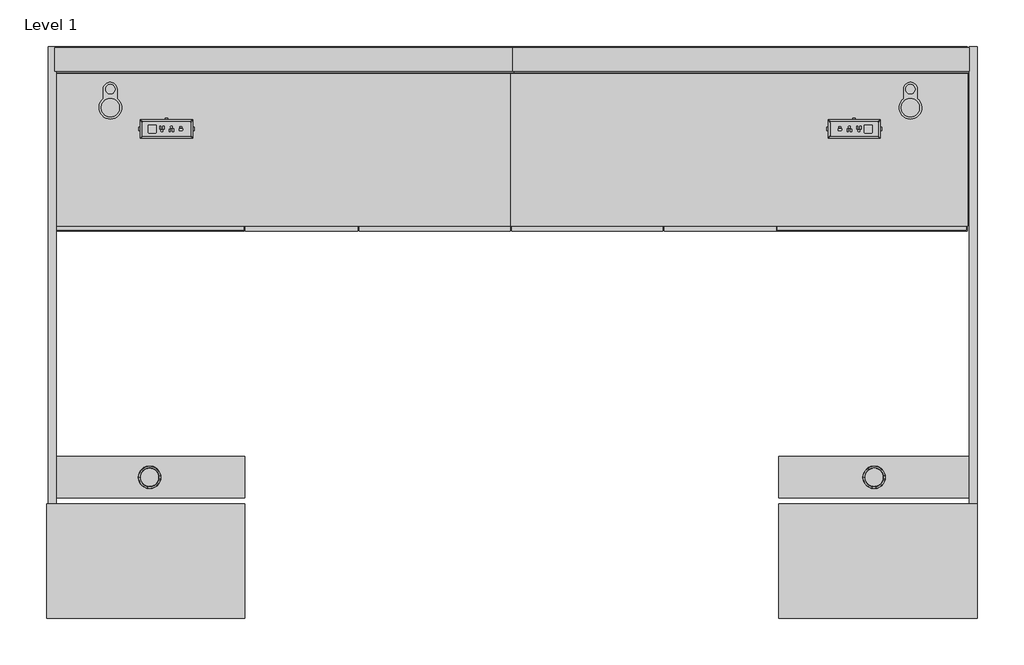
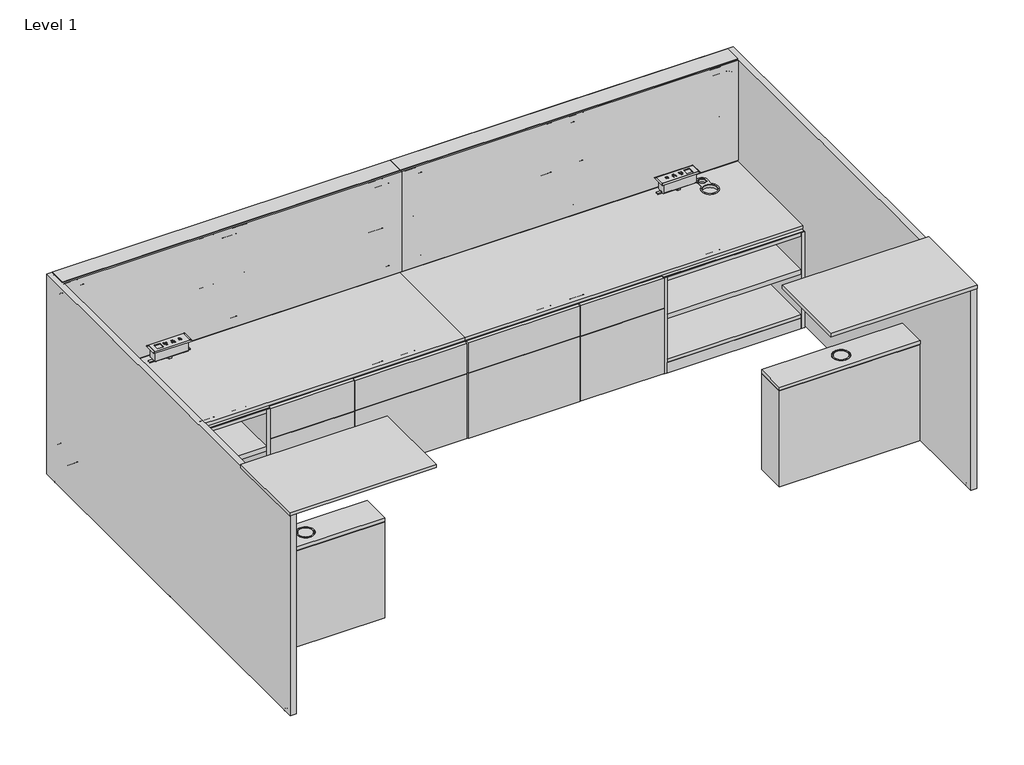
# One storey, incomplete: 28 furniture elements.
"""IFC4 building model written with IfcOpenShell, lengths in millimetres."""

from ifc_helpers import new_model, si_unit, origin, place, context, project, spatial, transform, mapped, element, save
from components import furniture_ddc98a45, furniture_9214251e, furniture_b60a1e1f, furniture_cee21b59, furniture_354f377b, furniture_8a5296c4, furniture_9b6296b0, furniture_22213a0b, furniture_d83d9811, furniture_c23576bc, furniture_ca8189b4, furniture_b237f15b, furniture_cb749d2c, furniture_763bb235, furniture_dea854d2, furniture_624d239f, furniture_ae18515d, furniture_0ab8890e, furniture_b96b83bb, furniture_460bbc34, in_surface_33791ff7, in_surface_6b24b240

model = new_model("IFC4")

# Units and contexts
model_context = context("Model", 3, world=origin())
ifc_project = project(units=[si_unit("LENGTHUNIT", "METRE", prefix="MILLI")], contexts=[model_context])

# Site, building, storey
site = spatial("IfcSite", under=ifc_project)
building = spatial("IfcBuilding", under=site)
storey = spatial("IfcBuildingStorey", under=building, Name="Level 1", Elevation=0.0)

# Furniture
placement = place(None, origin())
furniture_shape = furniture_ddc98a45(model_context)
element("IfcFurniture", 1, ObjectType="Geiger_GeigerOneCasegoods_WallFrameStandardApplication : 36Wx1Dx45H", at=placement, inside=storey, context=model_context, shape_type="MappedRepresentation", body=[
    mapped(furniture_shape, transform((1933.4041455, 5666.8516255, 0.0), x_axis=(1.0, 0.0, 0.0), y_axis=(0.0, 1.0, 0.0), z_axis=(0.0, 0.0, 1.0))),
])
element("IfcFurniture", 2, ObjectType="Geiger_GeigerOneCasegoods_WallFrameStandardApplication : 36Wx1Dx45H", at=placement, inside=storey, context=model_context, shape_type="MappedRepresentation", body=[
    mapped(furniture_shape, transform((2847.8041455, 5666.8516255, 0.0), x_axis=(1.0, 0.0, 0.0), y_axis=(0.0, 1.0, 0.0), z_axis=(0.0, 0.0, 1.0))),
])
furniture_2_shape = furniture_9214251e(model_context)
element("IfcFurniture", 3, ObjectType="Geiger_GeigerOneCasegoods_WallFrameStandardApplication : 36Wx1Dx45H", at=placement, inside=storey, context=model_context, shape_type="MappedRepresentation", body=[
    mapped(furniture_2_shape, transform((5590.8472557, 5666.8516255, 0.0), x_axis=(-1.0, 0.0, 0.0), y_axis=(0.0, -1.0, 0.0), z_axis=(0.0, 0.0, 1.0))),
])
element("IfcFurniture", 4, ObjectType="Geiger_GeigerOneCasegoods_WallFrameStandardApplication : 36Wx1Dx45H", at=placement, inside=storey, context=model_context, shape_type="MappedRepresentation", body=[
    mapped(furniture_2_shape, transform((4676.4472557, 5666.8516255, 0.0), x_axis=(-1.0, 0.0, 0.0), y_axis=(0.0, -1.0, 0.0), z_axis=(0.0, 0.0, 1.0))),
])
furniture_3_shape = furniture_b60a1e1f(model_context)
element("IfcFurniture", 5, ObjectType="Geiger_GeigerOneCasegoods_LegSupport : Box 30Wx 6.5Dx 22.5H", at=placement, inside=storey, context=model_context, shape_type="MappedRepresentation", body=[
    mapped(furniture_3_shape, transform((2318.9271424, 3992.3373454, 0.0), x_axis=(1.0, 0.0, 0.0), y_axis=(0.0, 1.0, 0.0), z_axis=(0.0, 0.0, 1.0))),
])
furniture_4_shape = furniture_cee21b59(model_context)
element("IfcFurniture", 6, ObjectType="Geiger_GeigerOneCasegoods_LegSupport : Box 30Wx 6.5Dx 22.5H", at=placement, inside=storey, context=model_context, shape_type="MappedRepresentation", body=[
    mapped(furniture_4_shape, transform((5217.3242587, 3992.3373454, 0.0), x_axis=(-1.0, 0.0, 0.0), y_axis=(0.0, -1.0, 0.0), z_axis=(0.0, 0.0, 1.0))),
])
furniture_5_shape = furniture_354f377b(model_context)
element("IfcFurniture", 7, ObjectType="Geiger_GeigerOneCasegoods_VerticalStorageTopCapSingleSidedApplication : Stone 18Wx 61.25Dx 0.75H", at=placement, inside=storey, context=model_context, shape_type="MappedRepresentation", body=[
    mapped(furniture_5_shape, transform((4835.7472557, 3427.9373454, 1158.6972), x_axis=(0.0, 1.0, 0.0), y_axis=(-1.0, 0.0, 0.0), z_axis=(0.0, 0.0, 1.0))),
])
furniture_6_shape = furniture_8a5296c4(model_context)
element("IfcFurniture", 8, ObjectType="Geiger_GeigerOneCasegoods_VerticalStorageTopCapSingleSidedApplication : Stone 18Wx 61.25Dx 0.75H", at=placement, inside=storey, context=model_context, shape_type="MappedRepresentation", body=[
    mapped(furniture_6_shape, transform((2700.5041455, 3427.9373454, 1158.6972), x_axis=(0.0, 1.0, 0.0), y_axis=(-1.0, 0.0, 0.0), z_axis=(0.0, 0.0, 1.0))),
])
furniture_7_shape = furniture_9b6296b0(model_context)
element("IfcFurniture", 9, ObjectType="Geiger_GeigerOneCasegoods_CredenzaTopLowHeightWithLegGrommet : Veneer 72Wx 24Dx 0.75H", at=placement, inside=storey, context=model_context, shape_type="MappedRepresentation", body=[
    mapped(furniture_7_shape, transform((1933.3257006, 5607.3273454, 565.404), x_axis=(1.0, 0.0, 0.0), y_axis=(0.0, 1.0, 0.0), z_axis=(0.0, 0.0, 1.0))),
])
furniture_8_shape = furniture_22213a0b(model_context)
element("IfcFurniture", 10, ObjectType="Geiger_GeigerOneCasegoods_CredenzaTopLowHeightWithLegGrommet : Veneer 72Wx 24Dx 0.75H", at=placement, inside=storey, context=model_context, shape_type="MappedRepresentation", body=[
    mapped(furniture_8_shape, transform((5590.9257006, 5607.3273454, 565.404), x_axis=(-1.0, 0.0, 0.0), y_axis=(0.0, -1.0, 0.0), z_axis=(0.0, 0.0, 1.0))),
])
furniture_9_shape = furniture_d83d9811(model_context)
element("IfcFurniture", 11, ObjectType="Geiger_GeigerOneCasegoods_LowStorage1Box1File : TFL 18Wx24Dx21.75H", at=placement, inside=storey, context=model_context, shape_type="MappedRepresentation", body=[
    mapped(furniture_9_shape, transform((4832.2872557, 5588.2773454, 0.0), x_axis=(-1.0, 0.0, 0.0), y_axis=(0.0, -1.0, 0.0), z_axis=(0.0, 0.0, 1.0))),
])
furniture_10_shape = furniture_c23576bc(model_context)
element("IfcFurniture", 12, ObjectType="Geiger_GeigerOneCasegoods_LowStorage1Box1File : TFL 18Wx24Dx21.75H", at=placement, inside=storey, context=model_context, shape_type="MappedRepresentation", body=[
    mapped(furniture_10_shape, transform((2697.9641455, 5588.2773454, 0.0), x_axis=(1.0, 0.0, 0.0), y_axis=(0.0, 1.0, 0.0), z_axis=(0.0, 0.0, 1.0))),
])
furniture_11_shape = furniture_ca8189b4(model_context)
element("IfcFurniture", 13, ObjectType="Geiger_GeigerOneCasegoods_LowStorage1Box1File : TFL 24Wx24Dx21.75H", at=placement, inside=storey, context=model_context, shape_type="MappedRepresentation", body=[
    mapped(furniture_11_shape, transform((3155.5257006, 5588.2773454, 0.0), x_axis=(1.0, 0.0, 0.0), y_axis=(0.0, 1.0, 0.0), z_axis=(0.0, 0.0, 1.0))),
])
furniture_12_shape = furniture_b237f15b(model_context)
element("IfcFurniture", 14, ObjectType="Geiger_GeigerOneCasegoods_LowStorage1Box1File : TFL 24Wx24Dx21.75H", at=placement, inside=storey, context=model_context, shape_type="MappedRepresentation", body=[
    mapped(furniture_12_shape, transform((4374.7257006, 5588.2773454, 0.0), x_axis=(-1.0, 0.0, 0.0), y_axis=(0.0, -1.0, 0.0), z_axis=(0.0, 0.0, 1.0))),
])
furniture_13_shape = furniture_cb749d2c(model_context)
element("IfcFurniture", 15, ObjectType="Geiger_GeigerOneCasegoods_LowStorageOpen : TFL 30Wx 24Dx21.75H", at=placement, inside=storey, context=model_context, shape_type="MappedRepresentation", body=[
    mapped(furniture_13_shape, transform((1935.9641455, 5588.2773454, 0.0), x_axis=(1.0, 0.0, 0.0), y_axis=(0.0, 1.0, 0.0), z_axis=(0.0, 0.0, 1.0))),
])
furniture_14_shape = furniture_763bb235(model_context)
element("IfcFurniture", 16, ObjectType="Geiger_GeigerOneCasegoods_LowStorageOpen : TFL 30Wx 24Dx21.75H", at=placement, inside=storey, context=model_context, shape_type="MappedRepresentation", body=[
    mapped(furniture_14_shape, transform((5589.2072557, 5588.2773454, 0.0), x_axis=(-1.0, 0.0, 0.0), y_axis=(0.0, -1.0, 0.0), z_axis=(0.0, 0.0, 1.0))),
])
furniture_15_shape = furniture_dea854d2(model_context)
element("IfcFurniture", 17, ObjectType="Geiger_GeigerOneCasegoods_VerticalGalleryPanelNoGlassNoCutOuts : Attaches Left", at=placement, inside=storey, context=model_context, shape_type="MappedRepresentation", body=[
    mapped(furniture_15_shape, transform((5630.7472557, 5716.997998, 12.7), x_axis=(1.0, 0.0, 0.0), y_axis=(0.0, 1.0, 0.0), z_axis=(0.0, 0.0, 1.0))),
])
furniture_16_shape = furniture_624d239f(model_context)
element("IfcFurniture", 18, ObjectType="Geiger_GeigerOneCasegoods_VerticalGalleryPanelNoGlassNoCutOuts : Attaches Right", at=placement, inside=storey, context=model_context, shape_type="MappedRepresentation", body=[
    mapped(furniture_16_shape, transform((1913.1041455, 5716.997998, 12.7), x_axis=(1.0, 0.0, 0.0), y_axis=(0.0, 1.0, 0.0), z_axis=(0.0, 0.0, 1.0))),
])
furniture_17_shape = furniture_ae18515d(model_context)
element("IfcFurniture", 19, ObjectType="Geiger_GeigerOneCasegoods_WallTopTrimDoubleSidedWall : 72Wx3.75Dx0.125H", at=placement, inside=storey, context=model_context, shape_type="MappedRepresentation", body=[
    mapped(furniture_17_shape, transform((1940.1472557, 5664.7426369, 1158.875), x_axis=(1.0, 0.0, 0.0), y_axis=(0.0, 1.0, 0.0), z_axis=(0.0, 0.0, 1.0))),
])
furniture_18_shape = furniture_0ab8890e(model_context)
element("IfcFurniture", 20, ObjectType="Geiger_GeigerOneCasegoods_WallTopTrimDoubleSidedWall : 72Wx3.75Dx0.125H", at=placement, inside=storey, context=model_context, shape_type="MappedRepresentation", body=[
    mapped(furniture_18_shape, transform((5597.7472557, 5664.7426369, 1158.875), x_axis=(-1.0, 0.0, 0.0), y_axis=(0.0, -1.0, 0.0), z_axis=(0.0, 0.0, 1.0))),
])
furniture_19_shape = furniture_b96b83bb(model_context)
element("IfcFurniture", 21, ObjectType="Geiger_GeigerOneCasegoods_WallTileTopTileorWallMountedFabric : RR Fabric 72Wx 1.25Dx 22.5H 2.5 yds", at=placement, inside=storey, context=model_context, shape_type="MappedRepresentation", body=[
    mapped(furniture_19_shape, transform((1946.1041455, 5637.7957471, 585.1906), x_axis=(1.0, 0.0, 0.0), y_axis=(0.0, 1.0, 0.0), z_axis=(0.0, 0.0, 1.0))),
])
element("IfcFurniture", 22, ObjectType="Geiger_GeigerOneCasegoods_WallTileTopTileorWallMountedFabric : RR Fabric 72Wx 1.25Dx 22.5H 2.5 yds", at=placement, inside=storey, context=model_context, shape_type="MappedRepresentation", body=[
    mapped(furniture_19_shape, transform((3774.9041455, 5637.7957471, 585.1906), x_axis=(1.0, 0.0, 0.0), y_axis=(0.0, 1.0, 0.0), z_axis=(0.0, 0.0, 1.0))),
])
furniture_20_shape = furniture_460bbc34(model_context)
element("IfcFurniture", 23, ObjectType="Geiger_GeigerOneCasegoods_WallTileTopTileorWallMounted : Vertical Veneer 36Wx 1.25Dx 45H", at=placement, inside=storey, context=model_context, shape_type="MappedRepresentation", body=[
    mapped(furniture_20_shape, transform((5589.9392623, 5690.997998, 16.875), x_axis=(-1.0, 0.0, 0.0), y_axis=(0.0, -1.0, 0.0), z_axis=(0.0, 0.0, 1.0))),
])
element("IfcFurniture", 24, ObjectType="Geiger_GeigerOneCasegoods_WallTileTopTileorWallMounted : Vertical Veneer 36Wx 1.25Dx 45H", at=placement, inside=storey, context=model_context, shape_type="MappedRepresentation", body=[
    mapped(furniture_20_shape, transform((4676.9392623, 5690.997998, 16.875), x_axis=(-1.0, 0.0, 0.0), y_axis=(0.0, -1.0, 0.0), z_axis=(0.0, 0.0, 1.0))),
])
element("IfcFurniture", 25, ObjectType="Geiger_GeigerOneCasegoods_WallTileTopTileorWallMounted : Vertical Veneer 36Wx 1.25Dx 45H", at=placement, inside=storey, context=model_context, shape_type="MappedRepresentation", body=[
    mapped(furniture_20_shape, transform((3763.9392623, 5690.997998, 16.875), x_axis=(-1.0, 0.0, 0.0), y_axis=(0.0, -1.0, 0.0), z_axis=(0.0, 0.0, 1.0))),
])
element("IfcFurniture", 26, ObjectType="Geiger_GeigerOneCasegoods_WallTileTopTileorWallMounted : Vertical Veneer 36Wx 1.25Dx 45H", at=placement, inside=storey, context=model_context, shape_type="MappedRepresentation", body=[
    mapped(furniture_20_shape, transform((2850.9392623, 5690.997998, 16.875), x_axis=(-1.0, 0.0, 0.0), y_axis=(0.0, -1.0, 0.0), z_axis=(0.0, 0.0, 1.0))),
])
in_surface_shape = in_surface_33791ff7(model_context)
element("IfcFurniture", 27, ObjectType="Geiger_GeigerOneCasegoods_PowerComponent2PowerOutlets1USBA1USBC : In Surface", at=placement, inside=storey, context=model_context, shape_type="MappedRepresentation", body=[
    mapped(in_surface_shape, transform((2386.7916713, 5387.0295876, 794.9946), x_axis=(1.0, 0.0, 0.0), y_axis=(0.0, 1.0, 0.0), z_axis=(0.0, 0.0, 1.0))),
])
in_surface_2_shape = in_surface_6b24b240(model_context)
element("IfcFurniture", 28, ObjectType="Geiger_GeigerOneCasegoods_PowerComponent2PowerOutlets1USBA1USBC : In Surface", at=placement, inside=storey, context=model_context, shape_type="MappedRepresentation", body=[
    mapped(in_surface_2_shape, transform((5137.30284, 5387.0295876, 794.9946), x_axis=(-1.0, 0.0, 0.0), y_axis=(0.0, -1.0, 0.0), z_axis=(0.0, 0.0, 1.0))),
])

save(model, "model.ifc")
